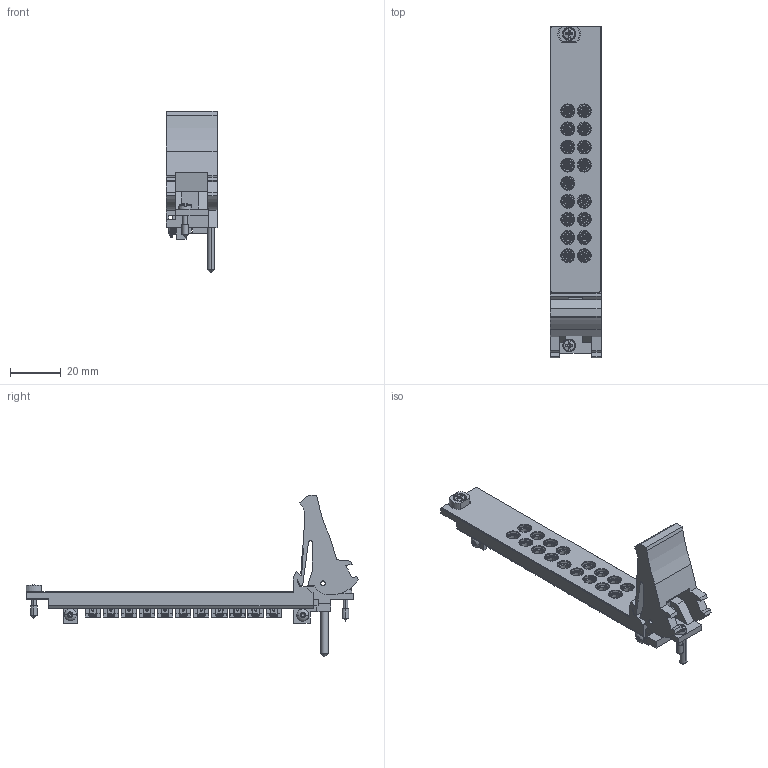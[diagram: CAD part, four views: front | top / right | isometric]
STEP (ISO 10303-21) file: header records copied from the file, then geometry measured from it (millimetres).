
FILE_DESCRIPTION((''),'2;1');
FILE_NAME('CU-PXIE-2748','2015-05-08T',('mshaw'),(''),'PRO/ENGINEER BY PARAMETRIC TECHNOLOGY CORPORATION, 2014000','PRO/ENGINEER BY PARAMETRIC TECHNOLOGY CORPORATION, 2014000','');
FILE_SCHEMA(('CONFIG_CONTROL_DESIGN'));
Length unit declared in the file: inch
Products named in the file (1): CU-PXIE-2748
Bounding box: 20.31 x 130.5 x 63.53 mm (x, y, z)
Volume: 18653.9 mm3; surface area: 23124.2 mm2
Topology: 23 solids, 23 shells, 3376 faces, 9377 edges, 6203 vertices
Faces by surface type: plane 1604, cylinder 1182, cone 532, bspline 34, torus 12, sphere 8, extrusion 4
Entity records: 123600 total; most frequent: CARTESIAN_POINT 36254, ORIENTED_EDGE 18738, DIRECTION 18083, EDGE_CURVE 9369, AXIS2_PLACEMENT_3D 6547, VERTEX_POINT 6203, VECTOR 4989, LINE 4985
